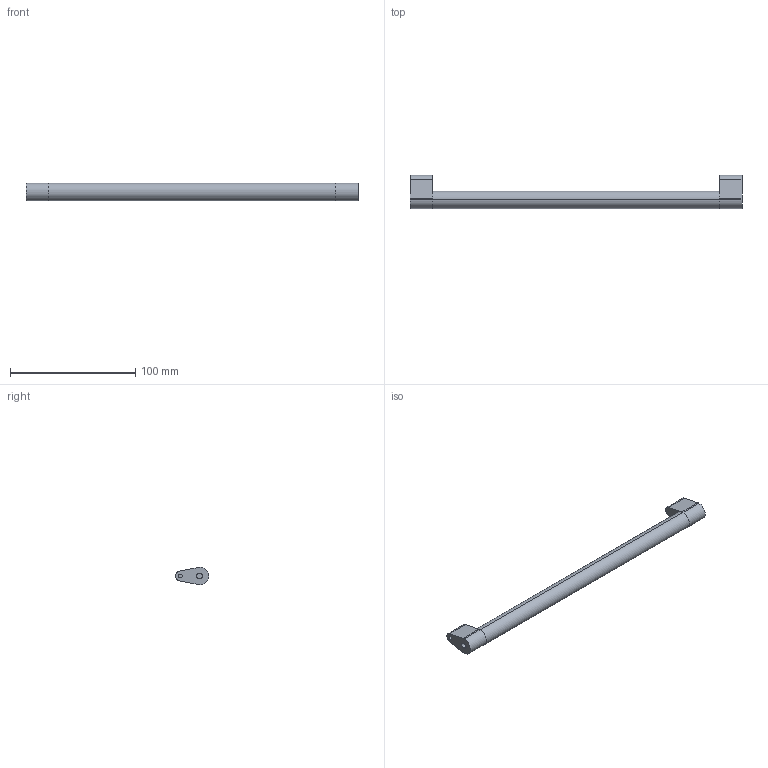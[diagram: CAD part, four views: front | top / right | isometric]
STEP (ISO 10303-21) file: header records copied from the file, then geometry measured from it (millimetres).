
FILE_DESCRIPTION (( 'STEP AP214' ), '1' );
FILE_NAME ('_Synchronisationseinheit Nova Pro KAB350_S16.step', '2010-07-08T13:58:26', ( 'grass' ), ( '' ), 'SwSTEP 2.0', 'SolidWorks 2010', '' );
FILE_SCHEMA (( 'AUTOMOTIVE_DESIGN' ));
Length unit declared in the file: millimetre
Products named in the file (1): _Synchronisationseinheit Nova Pro KAB350_S16
Bounding box: 265 x 26.5 x 14 mm (x, y, z)
Volume: 44480.4 mm3; surface area: 14502.3 mm2
Topology: 3 solids, 3 shells, 36 faces, 78 edges, 52 vertices
Faces by surface type: cylinder 18, plane 18
Entity records: 1050 total; most frequent: DIRECTION 188, CARTESIAN_POINT 167, ORIENTED_EDGE 156, EDGE_CURVE 78, AXIS2_PLACEMENT_3D 73, VERTEX_POINT 52, VECTOR 42, LINE 42
